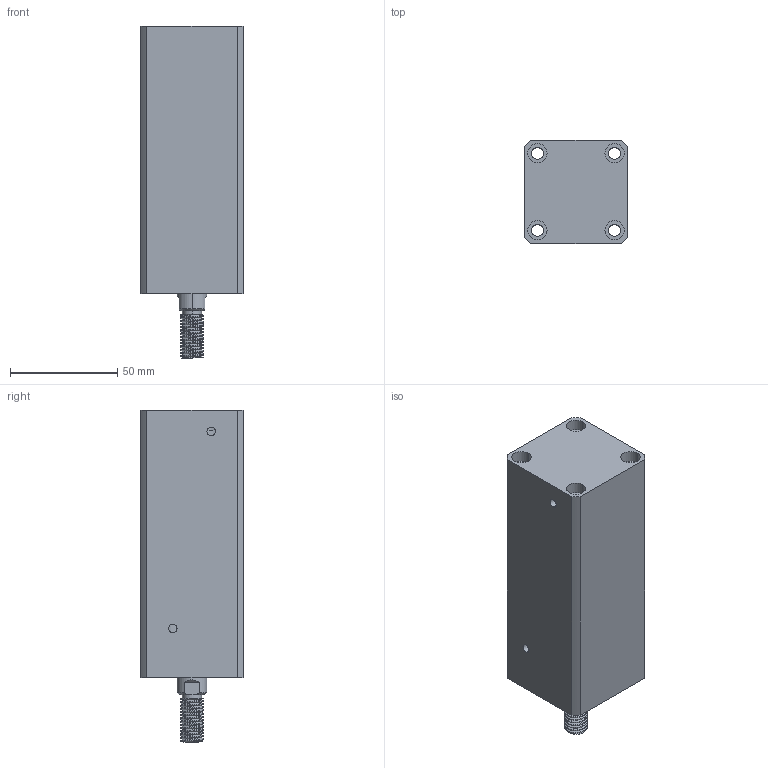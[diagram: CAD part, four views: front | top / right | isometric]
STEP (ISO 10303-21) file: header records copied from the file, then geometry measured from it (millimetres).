
FILE_DESCRIPTION (( 'STEP AP214' ), '1' );
FILE_NAME ('chtb-sdma25x80w_asm.STEP', '2018-05-22T07:39:47', ( 'Windows' ), ( 'Microsoft' ), 'SwSTEP 2.0', 'SolidWorks 2015', '' );
FILE_SCHEMA (( 'AUTOMOTIVE_DESIGN' ));
Length unit declared in the file: millimetre
Products named in the file (4): CHTB-SDMA25X80WHSG; CHTB-SDMA25X80NBT; CHTB-25QG; chtb-sdma25x80w_asm
Assembly tree (3 placements, depth 2):
  chtb-sdma25x80w_asm
    CHTB-25QG
    CHTB-SDMA25X80NBT
    CHTB-SDMA25X80WHSG
Bounding box: 48 x 48 x 155 mm (x, y, z)
Volume: 246033.4 mm3; surface area: 61314.7 mm2
Topology: 3 solids, 3 shells, 177 faces, 479 edges, 325 vertices
Faces by surface type: cylinder 117, plane 38, bspline 12, cone 10
Entity records: 10676 total; most frequent: CARTESIAN_POINT 6329, ORIENTED_EDGE 950, DIRECTION 772, EDGE_CURVE 475, VERTEX_POINT 325, AXIS2_PLACEMENT_3D 312, EDGE_LOOP 216, ADVANCED_FACE 177
